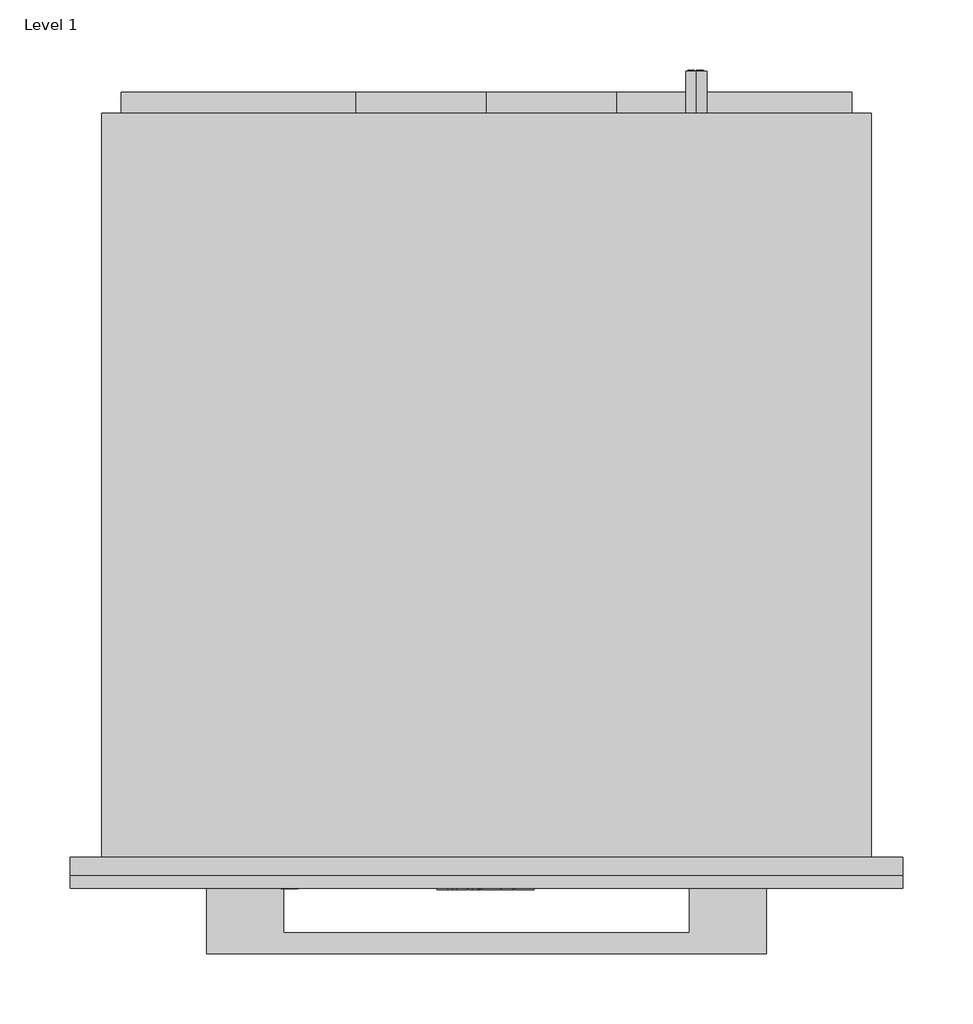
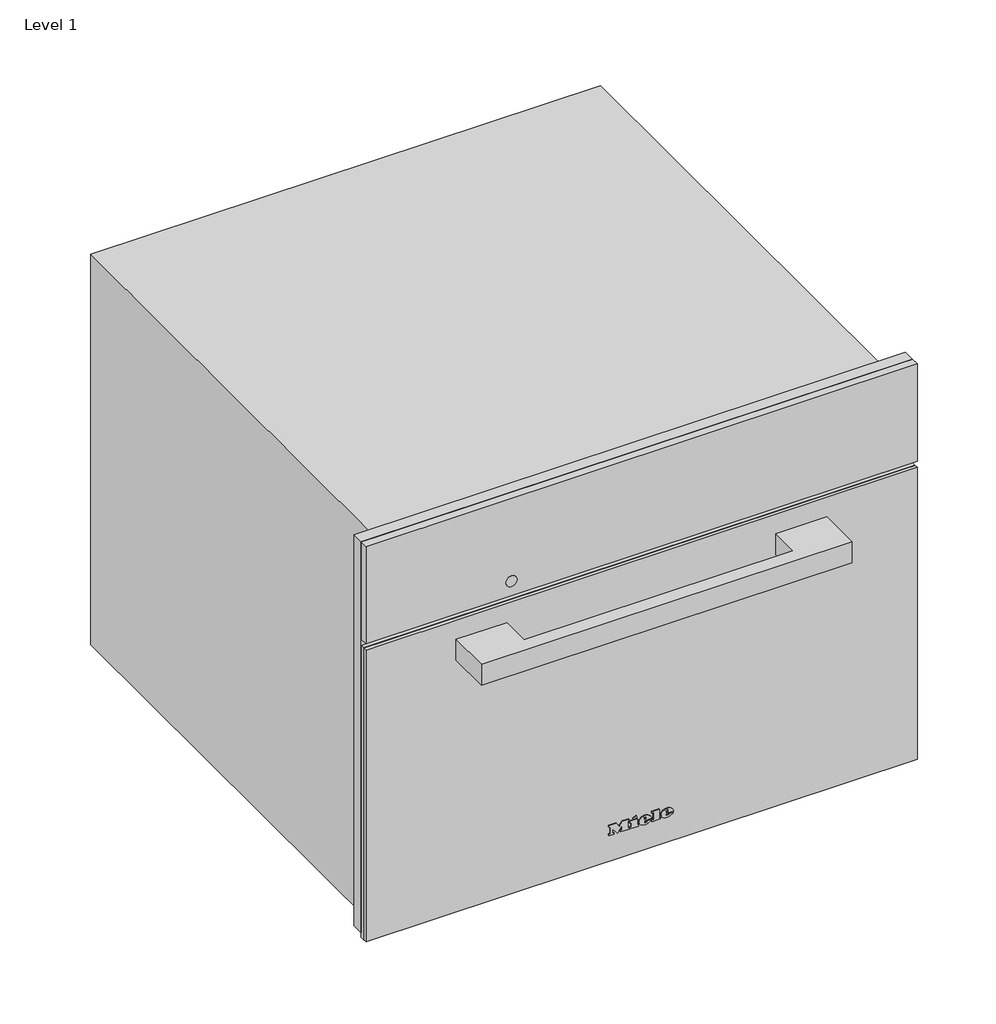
# One storey: 1 proxy.
"""IFC4 building model written with IfcOpenShell, lengths in millimetres."""

import ifcopenshell
import ifcopenshell.guid

model = None  # the IFC model being written
_history = None  # IfcOwnerHistory: only IFC2X3 demands one
_inside = {}  # id of a spatial element -> (the spatial element, [elements in it])
_under = {}  # id of a project, library or spatial element -> (it, [spatial elements below it])
_declared = {}  # id of a project -> (the project, [libraries it declares])
_typed = {}  # id of a type object -> (the type object, [elements of that type])
_made_of = {}  # id of a material, layer set ... -> (it, [elements and type objects made of it])


def new_model(schema):
    """Start an empty IFC model of exactly this schema.

    Asked for "IFC4X3", IfcOpenShell would pick the latest addendum, in which some entities
    have other attributes; the version numbers below select the first issue.
    IFC2X3 requires an IfcOwnerHistory on every rooted entity: one is made here for all.
    """
    global model, _history
    if schema == "IFC4X3":
        model = ifcopenshell.file(schema_version=(4, 3, 0, 0))
    else:
        model = ifcopenshell.file(schema=schema)
    _inside.clear()
    _under.clear()
    _declared.clear()
    _typed.clear()
    _made_of.clear()
    _history = None
    if model.schema == "IFC2X3":
        org = make("IfcOrganization", Name="unknown")
        user = make(
            "IfcPersonAndOrganization",
            ThePerson=make("IfcPerson", FamilyName="unknown"),
            TheOrganization=org,
        )
        app = make(
            "IfcApplication",
            ApplicationDeveloper=org,
            Version="unknown",
            ApplicationFullName="unknown",
            ApplicationIdentifier="unknown",
        )
        _history = make(
            "IfcOwnerHistory",
            OwningUser=user,
            OwningApplication=app,
            ChangeAction="ADDED",
            CreationDate=0,
        )
    return model


def make(cls, **values):
    """One entity of the class cls with the attributes given. An attribute that is None is left unset."""
    return model.create_entity(
        cls, **{name: value for name, value in values.items() if value is not None}
    )


def rooted(cls, **values):
    """An entity with a GlobalId (a new one), such as an element, a storey or a relation."""
    return make(cls, GlobalId=ifcopenshell.guid.new(), OwnerHistory=_history, **values)


def si_unit(unit_type, name, prefix=None):
    """IfcSIUnit, for example si_unit("LENGTHUNIT", "METRE", prefix="MILLI")."""
    return make("IfcSIUnit", UnitType=unit_type, Prefix=prefix, Name=name)


def assignment(units):
    """IfcUnitAssignment: the units of a project."""
    return None if units is None else make("IfcUnitAssignment", Units=units)


def point(xyz):
    """IfcCartesianPoint."""
    return None if xyz is None else make("IfcCartesianPoint", Coordinates=xyz)


def direction(xyz):
    """IfcDirection."""
    return None if xyz is None else make("IfcDirection", DirectionRatios=xyz)


def frame(location, z_axis=None, x_axis=None):
    """IfcAxis2Placement3D, a coordinate frame: its origin and axes. An axis left out is left unset."""
    return make(
        "IfcAxis2Placement3D",
        Location=point(location),
        Axis=direction(z_axis),
        RefDirection=direction(x_axis),
    )


def frame_2d(location, x_axis=None):
    """IfcAxis2Placement2D, a coordinate frame in the plane: its origin and x axis."""
    return make(
        "IfcAxis2Placement2D", Location=point(location), RefDirection=direction(x_axis)
    )


def origin():
    """The frame at (0, 0, 0) with its axes left unset."""
    return frame((0.0, 0.0, 0.0))


def place(relative_to, where):
    """IfcLocalPlacement: puts the frame where relative to a parent placement (None: the world)."""
    return make(
        "IfcLocalPlacement", PlacementRelTo=relative_to, RelativePlacement=where
    )


def context(
    kind, dimensions, precision=None, world=None, true_north=None, identifier=None
):
    """IfcGeometricRepresentationContext, for example the 3D "Model" context."""
    return make(
        "IfcGeometricRepresentationContext",
        ContextIdentifier=identifier,
        ContextType=kind,
        CoordinateSpaceDimension=dimensions,
        Precision=precision,
        WorldCoordinateSystem=world,
        TrueNorth=true_north,
    )


def project(units=None, contexts=None):
    """IfcProject with its units and contexts."""
    return rooted(
        "IfcProject",
        Name="project",
        RepresentationContexts=contexts,
        UnitsInContext=assignment(units),
    )


def spatial(cls, under=None, at=None, **own):
    """A site, building, storey or space (cls), placed at a placement, below another one or the project."""
    s = rooted(cls, ObjectPlacement=at, **own)
    if under is not None:
        _under.setdefault(under.id(), (under, []))[1].append(s)
    return s


def polyline(points):
    """IfcPolyline through the points."""
    return make("IfcPolyline", Points=[point(p) for p in points])


def circle_curve(where, radius):
    """IfcCircle in the frame where."""
    return make("IfcCircle", Position=where, Radius=radius)


def ellipse_curve(where, semi_axis1, semi_axis2):
    """IfcEllipse in the frame where."""
    return make(
        "IfcEllipse", Position=where, SemiAxis1=semi_axis1, SemiAxis2=semi_axis2
    )


def trimmed(basis, trim1, trim2, sense, master):
    """IfcTrimmedCurve: the piece of a basis curve between two trims."""
    return make(
        "IfcTrimmedCurve",
        BasisCurve=basis,
        Trim1=trim1,
        Trim2=trim2,
        SenseAgreement=sense,
        MasterRepresentation=master,
    )


def segment(curve, same_sense, transition):
    """IfcCompositeCurveSegment."""
    return make(
        "IfcCompositeCurveSegment",
        Transition=transition,
        SameSense=same_sense,
        ParentCurve=curve,
    )


def composite_curve(segments, self_intersect=None):
    """IfcCompositeCurve: segments joined end to end."""
    return make("IfcCompositeCurve", Segments=segments, SelfIntersect=self_intersect)


def outline(outer, holes=None, kind="AREA"):
    """IfcArbitraryClosedProfileDef: a profile drawn as a closed curve; with holes, ...WithVoids."""
    if holes is None:
        return make("IfcArbitraryClosedProfileDef", ProfileType=kind, OuterCurve=outer)
    return make(
        "IfcArbitraryProfileDefWithVoids",
        ProfileType=kind,
        OuterCurve=outer,
        InnerCurves=holes,
    )


def extrude(swept, where, along, depth):
    """IfcExtrudedAreaSolid: the profile swept, set in the frame where, extruded along a direction by depth."""
    return make(
        "IfcExtrudedAreaSolid",
        SweptArea=swept,
        Position=where,
        ExtrudedDirection=direction(along),
        Depth=depth,
    )


def faces_of(points, faces, orient=None, outer=None):
    """IfcFace entities. A face is a list of loops; a loop is a list of indices into points, from 0.

    orient and outer hold one flag for each loop. By default every Orientation is true, the
    first loop of a face is its IfcFaceOuterBound and the others are IfcFaceBound.
    """
    made = []
    for i, loops in enumerate(faces):
        bounds = []
        for j, loop in enumerate(loops):
            is_outer = j == 0 if outer is None else outer[i][j]
            bounds.append(
                make(
                    "IfcFaceOuterBound" if is_outer else "IfcFaceBound",
                    Bound=make("IfcPolyLoop", Polygon=[points[k] for k in loop]),
                    Orientation=True if orient is None else orient[i][j],
                )
            )
        made.append(make("IfcFace", Bounds=bounds))
    return made


def faceted_brep(points, faces, orient=None, outer=None, voids=None):
    """IfcFacetedBrep: a solid bounded by flat faces; with voids (closed shells), ...WithVoids."""
    shared = [point(p) for p in points]
    hull = make("IfcClosedShell", CfsFaces=faces_of(shared, faces, orient, outer))
    if voids is None:
        return make("IfcFacetedBrep", Outer=hull)
    return make(
        "IfcFacetedBrepWithVoids",
        Outer=hull,
        Voids=[
            make(cls, CfsFaces=faces_of(shared, fs, o, b)) for cls, fs, o, b in voids
        ],
    )


def shape(context_of_items, identifier, shape_type, items):
    """IfcShapeRepresentation: the items that make up one representation, for example the "Body"."""
    return make(
        "IfcShapeRepresentation",
        ContextOfItems=context_of_items,
        RepresentationIdentifier=identifier,
        RepresentationType=shape_type,
        Items=items,
    )


def source(mapping_origin, context_of_items, identifier, shape_type, items):
    """IfcRepresentationMap: a shape defined once, which mapped items show again and again."""
    return make(
        "IfcRepresentationMap",
        MappingOrigin=mapping_origin,
        MappedRepresentation=shape(context_of_items, identifier, shape_type, items),
    )


def transform(
    local_origin,
    x_axis=None,
    y_axis=None,
    z_axis=None,
    scale=None,
    scale2=None,
    scale3=None,
    uniform=True,
):
    """IfcCartesianTransformationOperator3D, or its non-uniform kind. x_axis, y_axis, z_axis: its Axis1, 2, 3."""
    if uniform:
        return make(
            "IfcCartesianTransformationOperator3D",
            Axis1=direction(x_axis),
            Axis2=direction(y_axis),
            LocalOrigin=point(local_origin),
            Scale=scale,
            Axis3=direction(z_axis),
        )
    return make(
        "IfcCartesianTransformationOperator3DnonUniform",
        Axis1=direction(x_axis),
        Axis2=direction(y_axis),
        LocalOrigin=point(local_origin),
        Scale=scale,
        Axis3=direction(z_axis),
        Scale2=scale2,
        Scale3=scale3,
    )


def mapped(mapping_source, mapping_target):
    """IfcMappedItem: shows the shape of a source again, moved by a transform."""
    return make(
        "IfcMappedItem", MappingSource=mapping_source, MappingTarget=mapping_target
    )


def made_of(thing, what):
    """Note that an element or type object is made of a material, layer set ...; save() writes the relation."""
    if what is not None:
        _made_of.setdefault(what.id(), (what, []))[1].append(thing)
    return thing


def element(
    cls,
    number,
    at=None,
    inside=None,
    cuts=None,
    type_object=None,
    material=None,
    context=None,
    identifier="Body",
    shape_type=None,
    held_by="IfcProductDefinitionShape",
    body=None,
    shapes=None,
    **own,
):
    """One element of the class cls, such as IfcWall. Its Tag is "e" and its number.

    at: its placement. inside: the storey or other place that contains it. cuts: it is an
    opening in that element (IfcRelVoidsElement). A single representation is given by context,
    identifier, shape_type and body (its items); several are given by shapes. held_by: the class
    of the entity that holds the representations. save() writes the other relations.
    """
    e = rooted(cls, Tag="e%d" % number, ObjectPlacement=at, **own)
    if body is not None:
        shapes = [shape(context, identifier, shape_type, body)]
    if shapes is not None:
        e.Representation = make(held_by, Representations=shapes)
    if inside is not None:
        _inside.setdefault(inside.id(), (inside, []))[1].append(e)
    if cuts is not None:
        rooted(
            "IfcRelVoidsElement", RelatingBuildingElement=cuts, RelatedOpeningElement=e
        )
    if type_object is not None:
        _typed.setdefault(type_object.id(), (type_object, []))[1].append(e)
    return made_of(e, material)


def aggregate(whole, parts):
    """IfcRelAggregates: a whole, such as a stair, and the parts it consists of."""
    return rooted("IfcRelAggregates", RelatingObject=whole, RelatedObjects=parts)


def save(model, path):
    """Write the relations noted so far, then the file.

    IfcRelAggregates (storeys below a building ...), IfcRelContainedInSpatialStructure (elements
    in a storey), IfcRelDefinesByType, IfcRelAssociatesMaterial and IfcRelDeclares: one each for
    every whole, place, type object, material and project.
    """
    for whole, parts in _under.values():
        aggregate(whole, parts)
    for where, things in _inside.values():
        rooted(
            "IfcRelContainedInSpatialStructure",
            RelatedElements=things,
            RelatingStructure=where,
        )
    for kind, things in _typed.values():
        rooted("IfcRelDefinesByType", RelatedObjects=things, RelatingType=kind)
    for what, things in _made_of.values():
        rooted("IfcRelAssociatesMaterial", RelatedObjects=things, RelatingMaterial=what)
    for by, libraries in _declared.values():
        rooted("IfcRelDeclares", RelatingContext=by, RelatedDefinitions=libraries)
    model.write(path)


def plane_surface(at):
    """IfcPlane: the flat surface through the origin of the frame at, square to its z axis."""
    return make("IfcPlane", Position=at)


def cylinder_surface(at, radius):
    """IfcCylindricalSurface: all points at the distance radius from the z axis of the frame at."""
    return make("IfcCylindricalSurface", Position=at, Radius=radius)


def revolved_surface(curve, axis_point, axis_direction):
    """IfcSurfaceOfRevolution: the curve turned about the line through axis_point along axis_direction."""
    return make(
        "IfcSurfaceOfRevolution",
        SweptCurve=make("IfcArbitraryOpenProfileDef", ProfileType="CURVE", Curve=curve),
        AxisPosition=make("IfcAxis1Placement", Location=point(axis_point), Axis=direction(axis_direction)),
    )


def extruded_surface(curve, direction_of_extrusion, depth):
    """IfcSurfaceOfLinearExtrusion: the curve pushed along a direction by depth."""
    return make(
        "IfcSurfaceOfLinearExtrusion",
        SweptCurve=make("IfcArbitraryOpenProfileDef", ProfileType="CURVE", Curve=curve),
        ExtrudedDirection=direction(direction_of_extrusion),
        Depth=depth,
    )


def advanced_brep(points, edges, surfaces, faces):
    """IfcAdvancedBrep: a solid bounded by faces that lie on surfaces and meet in shared edges.

    An edge is (start, end): straight between two places in points (the first is 0);
    or (start, end, curve); or (start, end, curve, False) where it runs against its curve.
    A face is (place in surfaces, loops), or (place, loops, False) where it looks against
    its surface's normal. A loop lists edges by number (the first is 1), with a minus sign
    where the edge is run from its end to its start. The first loop is the outer one.
    """
    corners = [point(p) for p in points]
    vertices = [make("IfcVertexPoint", VertexGeometry=c) for c in corners]
    made = []
    for start, end, *more in edges:
        made.append(
            make(
                "IfcEdgeCurve",
                EdgeStart=vertices[start],
                EdgeEnd=vertices[end],
                EdgeGeometry=more[0] if more else make("IfcPolyline", Points=[corners[start], corners[end]]),
                SameSense=more[1] if len(more) > 1 else True,
            )
        )
    hull = []
    for where, loops, *sense in faces:
        bounds = []
        for j, loop in enumerate(loops):
            ring = [make("IfcOrientedEdge", EdgeElement=made[abs(k) - 1], Orientation=k > 0) for k in loop]
            bounds.append(
                make(
                    "IfcFaceOuterBound" if j == 0 else "IfcFaceBound",
                    Bound=make("IfcEdgeLoop", EdgeList=ring),
                    Orientation=True,
                )
            )
        hull.append(make("IfcAdvancedFace", Bounds=bounds, FaceSurface=surfaces[where], SameSense=sense[0] if sense else True))
    return make("IfcAdvancedBrep", Outer=make("IfcClosedShell", CfsFaces=hull))


def specialty_equipment_6ac7eda2(model_context):
    return source(origin(), model_context, "Body", "SolidModel", [
        extrude(outline(polyline([(455.0, 297.5), (455.0, -297.5), (9.0, -297.5), (9.0, -272.5), (344.0, -272.5), (344.0, 272.5), (9.0, 272.5), (9.0, 297.5), (455.0, 297.5)])), frame((0.0, -13.0, 0.0), z_axis=(0.0, 1.0, 0.0), x_axis=(0.0, 0.0, 1.0)), (0.0, 0.0, 1.0), 13.0),
        advanced_brep(
        [(150.0, 561.0, 410.5), (150.0, 561.0, 395.5), (144.4098301, 561.0, 398.0), (148.5, 561.0, 398.0), (148.5, 561.0, 408.0), (147.4955303, 561.0, 408.0), (147.4955303, 561.0, 399.0), (144.0315043, 561.0, 399.0), (144.0315043, 561.0, 398.4582978), (155.0, 561.0, 398.0), (155.0, 561.0, 408.0), (150.0, 561.0, 408.0), (150.0, 561.0, 407.0), (154.0, 561.0, 407.0), (154.0, 561.0, 403.5), (151.0, 561.0, 403.5), (151.0, 561.0, 402.5), (154.0, 561.0, 402.5), (154.0, 561.0, 399.0), (150.0, 561.0, 399.0), (150.0, 561.0, 398.0), (150.0, 531.0, 395.5), (150.0, 531.0, 410.5), (155.0, 562.0, 408.0), (155.0, 562.0, 398.0), (150.0, 562.0, 398.0), (150.0, 562.0, 399.0), (154.0, 562.0, 399.0), (154.0, 562.0, 402.5), (151.0, 562.0, 402.5), (151.0, 562.0, 403.5), (154.0, 562.0, 403.5), (154.0, 562.0, 407.0), (150.0, 562.0, 407.0), (150.0, 562.0, 408.0), (148.5, 562.0, 398.0), (144.0315043, 562.0, 398.0), (144.0315043, 562.0, 399.0), (147.4955303, 562.0, 399.0), (147.4955303, 562.0, 408.0), (148.5, 562.0, 408.0), (144.0315043, 561.0, 398.0)],
        [
            (0, 1, circle_curve(frame((150.0, 561.0, 403.0), z_axis=(0.0, 1.0, 0.0), x_axis=(0.0, 0.0, 1.0)), 7.5)),
            (1, 2, circle_curve(frame((150.0, 561.0, 403.0), z_axis=(0.0, 1.0, 0.0), x_axis=(0.0, 0.0, 1.0)), 7.5)),
            (2, 3),
            (3, 4),
            (4, 5),
            (5, 6),
            (6, 7),
            (7, 8),
            (8, 0, circle_curve(frame((150.0, 561.0, 403.0), z_axis=(0.0, 1.0, 0.0), x_axis=(0.0, 0.0, 1.0)), 7.5)),
            (9, 10),
            (10, 11),
            (11, 12),
            (12, 13),
            (13, 14),
            (14, 15),
            (15, 16),
            (16, 17),
            (17, 18),
            (18, 19),
            (19, 20),
            (20, 9),
            (21, 22, circle_curve(frame((150.0, 531.0, 403.0), z_axis=(0.0, -1.0, 0.0), x_axis=(0.0, 0.0, 1.0)), 7.5)),
            (22, 21, circle_curve(frame((150.0, 531.0, 403.0), z_axis=(0.0, -1.0, 0.0), x_axis=(0.0, 0.0, 1.0)), 7.5)),
            (0, 22),
            (21, 1),
            (8, 2, circle_curve(frame((150.0, 561.0, 403.0), z_axis=(0.0, -1.0, 0.0), x_axis=(0.0, 0.0, 1.0)), 7.5)),
            (23, 24),
            (24, 25),
            (25, 26),
            (26, 27),
            (27, 28),
            (28, 29),
            (29, 30),
            (30, 31),
            (31, 32),
            (32, 33),
            (33, 34),
            (34, 23),
            (35, 36),
            (36, 37),
            (37, 38),
            (38, 39),
            (39, 40),
            (40, 35),
            (8, 41),
            (41, 2),
            (23, 10),
            (9, 24),
            (20, 25),
            (19, 26),
            (18, 27),
            (17, 28),
            (16, 29),
            (15, 30),
            (14, 31),
            (13, 32),
            (12, 33),
            (11, 34),
            (35, 3),
            (41, 36),
            (7, 37),
            (6, 38),
            (5, 39),
            (4, 40),
        ],
        [
            plane_surface(frame((150.0, 561.0, 410.5), z_axis=(0.0, 1.0, 0.0), x_axis=(1.0, 0.0, 0.0))),
            plane_surface(frame((150.0, 531.0, 410.5), z_axis=(0.0, -1.0, 0.0), x_axis=(-1.0, 0.0, 0.0))),
            cylinder_surface(frame((150.0, 561.0, 403.0), z_axis=(0.0, -1.0, 0.0), x_axis=(0.0, 0.0, 1.0)), 7.5),
            plane_surface(frame((155.0, 562.0, 408.0), z_axis=(0.0, 1.0, 0.0), x_axis=(0.0, 0.0, -1.0))),
            plane_surface(frame((155.0, 561.0, 408.0), z_axis=(0.0, -1.0, 0.0), x_axis=(0.0, 0.0, 1.0))),
            plane_surface(frame((155.0, 562.0, 408.0), z_axis=(1.0, 0.0, 0.0), x_axis=(0.0, -1.0, 0.0))),
            plane_surface(frame((155.0, 562.0, 398.0), z_axis=(0.0, 0.0, -1.0), x_axis=(0.0, -1.0, 0.0))),
            plane_surface(frame((150.0, 562.0, 398.0), z_axis=(-1.0, 0.0, 0.0), x_axis=(0.0, -1.0, 0.0))),
            plane_surface(frame((150.0, 562.0, 399.0), z_axis=(0.0, 0.0, 1.0), x_axis=(0.0, -1.0, 0.0))),
            plane_surface(frame((154.0, 562.0, 399.0), z_axis=(-1.0, 0.0, 0.0), x_axis=(0.0, -1.0, 0.0))),
            plane_surface(frame((154.0, 562.0, 402.5), z_axis=(0.0, 0.0, -1.0), x_axis=(0.0, -1.0, 0.0))),
            plane_surface(frame((151.0, 562.0, 402.5), z_axis=(-1.0, 0.0, 0.0), x_axis=(0.0, -1.0, 0.0))),
            plane_surface(frame((151.0, 562.0, 403.5), z_axis=(0.0, 0.0, 1.0), x_axis=(0.0, -1.0, 0.0))),
            plane_surface(frame((154.0, 562.0, 403.5), z_axis=(-1.0, 0.0, 0.0), x_axis=(0.0, -1.0, 0.0))),
            plane_surface(frame((154.0, 562.0, 407.0), z_axis=(0.0, 0.0, -1.0), x_axis=(0.0, -1.0, 0.0))),
            plane_surface(frame((150.0, 562.0, 407.0), z_axis=(-1.0, 0.0, 0.0), x_axis=(0.0, -1.0, 0.0))),
            plane_surface(frame((150.0, 562.0, 408.0), z_axis=(0.0, 0.0, 1.0), x_axis=(0.0, -1.0, 0.0))),
            plane_surface(frame((148.5, 562.0, 398.0), z_axis=(0.0, 0.0, -1.0), x_axis=(0.0, -1.0, 0.0))),
            plane_surface(frame((144.0315043, 562.0, 398.0), z_axis=(-1.0, 0.0, 0.0), x_axis=(0.0, -1.0, 0.0))),
            plane_surface(frame((144.0315043, 562.0, 399.0), z_axis=(0.0, 0.0, 1.0), x_axis=(0.0, -1.0, 0.0))),
            plane_surface(frame((147.4955303, 562.0, 399.0), z_axis=(-1.0, 0.0, 0.0), x_axis=(0.0, -1.0, 0.0))),
            plane_surface(frame((147.4955303, 562.0, 408.0), z_axis=(0.0, 0.0, 1.0), x_axis=(0.0, -1.0, 0.0))),
            plane_surface(frame((148.5, 562.0, 408.0), z_axis=(1.0, 0.0, 0.0), x_axis=(0.0, -1.0, 0.0))),
        ],
        [
            (0, [[1, 2, 3, 4, 5, 6, 7, 8, 9], [10, 11, 12, 13, 14, 15, 16, 17, 18, 19, 20, 21]]),
            (1, [[22, 23]]),
            (2, [[-1, 24, -22, 25]]),
            (2, [[-23, -24, -9, 26, -2, -25]]),
            (3, [[27, 28, 29, 30, 31, 32, 33, 34, 35, 36, 37, 38]]),
            (3, [[39, 40, 41, 42, 43, 44]]),
            (4, [[45, 46, -26]]),
            (5, [[-27, 47, -10, 48]]),
            (6, [[-28, -48, -21, 49]]),
            (7, [[-29, -49, -20, 50]]),
            (8, [[-30, -50, -19, 51]]),
            (9, [[-31, -51, -18, 52]]),
            (10, [[-32, -52, -17, 53]]),
            (11, [[-33, -53, -16, 54]]),
            (12, [[-34, -54, -15, 55]]),
            (13, [[-35, -55, -14, 56]]),
            (14, [[-36, -56, -13, 57]]),
            (15, [[-37, -57, -12, 58]]),
            (16, [[-38, -58, -11, -47]]),
            (17, [[-39, 59, -3, -46, 60]]),
            (18, [[-40, -60, -45, -8, 61]]),
            (19, [[-41, -61, -7, 62]]),
            (20, [[-42, -62, -6, 63]]),
            (21, [[-43, -63, -5, 64]]),
            (22, [[-44, -64, -4, -59]]),
        ],
    ),
        extrude(outline(polyline([(299.0, -93.0), (258.0, -93.0), (258.0, -261.0), (111.0, -261.0), (111.0, -93.0), (70.0, -93.0), (70.0, 0.0), (70.0, 93.0), (111.0, 93.0), (111.0, 261.0), (258.0, 261.0), (258.0, 93.0), (299.0, 93.0), (299.0, 0.0), (299.0, -93.0)])), frame((0.0, 531.0, 0.0), z_axis=(0.0, 1.0, 0.0), x_axis=(0.0, 0.0, 1.0)), (0.0, 0.0, 1.0), 15.0),
        faceted_brep([(275.0, 531.0, 445.0), (275.0, 531.0, 0.0), (-275.0, 531.0, 0.0), (-275.0, 531.0, 445.0), (275.0, 0.0, 445.0), (-275.0, 0.0, 445.0), (-275.0, 0.0, 0.0), (275.0, 0.0, 0.0), (-272.5, 0.0, 344.0), (272.5, 0.0, 344.0), (272.5, 0.0, 8.0), (-272.5, 0.0, 8.0), (272.5, 34.0, 344.0), (-272.5, 34.0, 344.0), (-272.5, 34.0, 8.0), (272.5, 34.0, 8.0), (161.0, 34.0, 286.0), (161.0, 34.0, 58.0), (-220.0, 34.0, 58.0), (-220.0, 34.0, 286.0), (161.0, 444.0, 286.0), (-220.0, 444.0, 286.0), (-220.0, 444.0, 58.0), (161.0, 444.0, 58.0)], [[[0, 1, 2, 3]], [[4, 5, 6, 7], [8, 9, 10, 11]], [[0, 3, 5, 4]], [[3, 2, 6, 5]], [[2, 1, 7, 6]], [[1, 0, 4, 7]], [[12, 13, 14, 15], [16, 17, 18, 19]], [[13, 12, 9, 8]], [[14, 13, 8, 11]], [[15, 14, 11, 10]], [[12, 15, 10, 9]], [[20, 21, 22, 23]], [[20, 23, 17, 16]], [[23, 22, 18, 17]], [[22, 21, 19, 18]], [[21, 20, 16, 19]]]),
        advanced_brep(
        [(26.2998, -23.0, 36.7018), (26.2998, -23.0, 37.8532), (33.9264, -23.0, 37.8532), (20.6568, -23.0, 37.8532), (23.7918, -23.0, 34.0), (33.7326, -23.0, 36.7018), (30.2898, -23.0, 36.7018), (27.5766, -23.0, 35.425), (26.2998, -23.0, 39.3124), (26.2998, -23.0, 40.555), (28.2492, -23.0, 40.555), (28.2492, -23.0, 39.3124), (26.2998, -22.0, 36.7018), (27.5766, -22.0, 35.425), (30.2898, -22.0, 36.7018), (33.7326, -22.0, 36.7018), (23.7918, -22.0, 34.0), (20.6568, -22.0, 37.8532), (33.9264, -22.0, 37.8532), (26.2998, -22.0, 37.8532), (26.2998, -22.0, 39.3124), (28.2492, -22.0, 39.3124), (28.2492, -22.0, 40.555), (26.2998, -22.0, 40.555)],
        [
            (0, 1),
            (1, 2),
            (2, 3, ellipse_curve(frame((27.2916, -23.0, 37.8532), z_axis=(0.0, -1.0, 0.0), x_axis=(-1.0, 0.0, 0.0)), 6.6348, 5.4834)),
            (3, 4, circle_curve(frame((25.0686622, -23.0, 38.2408), z_axis=(0.0, -1.0, 0.0), x_axis=(0.0, 0.0, -1.0)), 4.4288556)),
            (4, 5, circle_curve(frame((27.1587808, -23.0, 41.2504), z_axis=(0.0, -1.0, 0.0), x_axis=(0.0, 0.0, -1.0)), 7.9940516)),
            (5, 6),
            (6, 7, circle_curve(frame((28.1338588, -23.0, 37.762), z_axis=(0.0, 1.0, 0.0), x_axis=(0.0, 0.0, -1.0)), 2.4025208)),
            (7, 0, circle_curve(frame((27.5766, -23.0, 36.7018), z_axis=(0.0, 1.0, 0.0), x_axis=(0.0, 0.0, -1.0)), 1.2768)),
            (8, 9),
            (9, 10, circle_curve(frame((27.2745, -23.0, 40.555), z_axis=(0.0, 1.0, 0.0), x_axis=(0.0, 0.0, -1.0)), 0.9747)),
            (10, 11),
            (11, 8),
            (12, 13, circle_curve(frame((27.5766, -22.0, 36.7018), z_axis=(0.0, -1.0, 0.0), x_axis=(0.0, 0.0, -1.0)), 1.2768)),
            (13, 14, circle_curve(frame((28.1338588, -22.0, 37.762), z_axis=(0.0, -1.0, 0.0), x_axis=(0.0, 0.0, -1.0)), 2.4025208)),
            (14, 15),
            (15, 16, circle_curve(frame((27.1587808, -22.0, 41.2504), z_axis=(0.0, 1.0, 0.0), x_axis=(0.0, 0.0, -1.0)), 7.9940516)),
            (16, 17, circle_curve(frame((25.0686622, -22.0, 38.2408), z_axis=(0.0, 1.0, 0.0), x_axis=(0.0, 0.0, -1.0)), 4.4288556)),
            (17, 18, ellipse_curve(frame((27.2916, -22.0, 37.8532), z_axis=(0.0, 1.0, 0.0), x_axis=(-1.0, 0.0, 0.0)), 6.6348, 5.4834)),
            (18, 19),
            (19, 12),
            (20, 21),
            (21, 22),
            (22, 23, circle_curve(frame((27.2745, -22.0, 40.555), z_axis=(0.0, -1.0, 0.0), x_axis=(0.0, 0.0, -1.0)), 0.9747)),
            (23, 20),
            (0, 12),
            (19, 1),
            (18, 2),
            (5, 15),
            (14, 6),
            (17, 3),
            (13, 7),
            (16, 4),
            (8, 20),
            (23, 9),
            (22, 10),
            (21, 11),
        ],
        [
            plane_surface(frame((26.2998, -23.0, 37.8532), z_axis=(0.0, -1.0, 0.0), x_axis=(0.0, 0.0, 1.0))),
            plane_surface(frame((26.2998, -22.0, 37.8532), z_axis=(0.0, 1.0, 0.0), x_axis=(0.0, 0.0, -1.0))),
            plane_surface(frame((26.2998, -23.0, 36.7018), z_axis=(1.0, 0.0, 0.0), x_axis=(0.0, 1.0, 0.0))),
            plane_surface(frame((26.2998, -23.0, 37.8532), z_axis=(0.0, 0.0, -1.0), x_axis=(0.0, 1.0, 0.0))),
            plane_surface(frame((33.7326, -23.0, 36.7018), z_axis=(0.0, 0.0, 1.0), x_axis=(0.0, 1.0, 0.0))),
            extruded_surface(trimmed(ellipse_curve(frame((27.2916, -21.0, 37.8532), z_axis=(0.0, -1.0, 0.0), x_axis=(-1.0, 0.0, 0.0)), 6.6348, 5.4834), [point((33.9264, -21.0, 37.8532))], [point((20.6568, -21.0, 37.8532))], True, "CARTESIAN"), (0.0, -1.0, 0.0), 1.0),
            revolved_surface(polyline([(28.1338588, -22.0, 35.3594792), (28.1338588, -23.0, 35.3594792)]), (28.1338588, -22.0, 37.762), (0.0, 1.0, 0.0)),
            revolved_surface(polyline([(27.5766, -22.0, 35.425), (27.5766, -23.0, 35.425)]), (27.5766, -22.0, 36.7018), (0.0, 1.0, 0.0)),
            cylinder_surface(frame((25.0686622, -22.0, 38.2408), z_axis=(0.0, -1.0, 0.0), x_axis=(0.0, 0.0, -1.0)), 4.4288556),
            cylinder_surface(frame((27.1587808, -22.0, 41.2504), z_axis=(0.0, -1.0, 0.0), x_axis=(0.0, 0.0, -1.0)), 7.9940516),
            plane_surface(frame((26.2998, -23.0, 39.3124), z_axis=(1.0, 0.0, 0.0), x_axis=(0.0, 1.0, 0.0))),
            revolved_surface(polyline([(27.2745, -22.0, 39.5803), (27.2745, -23.0, 39.5803)]), (27.2745, -22.0, 40.555), (0.0, 1.0, 0.0)),
            plane_surface(frame((28.2492, -23.0, 40.555), z_axis=(-1.0, 0.0, 0.0), x_axis=(0.0, 1.0, 0.0))),
            plane_surface(frame((28.2492, -23.0, 39.3124), z_axis=(0.0, 0.0, 1.0), x_axis=(0.0, 1.0, 0.0))),
        ],
        [
            (0, [[1, 2, 3, 4, 5, 6, 7, 8], [9, 10, 11, 12]]),
            (1, [[13, 14, 15, 16, 17, 18, 19, 20], [21, 22, 23, 24]]),
            (2, [[-1, 25, -20, 26]]),
            (3, [[-2, -26, -19, 27]]),
            (4, [[-6, 28, -15, 29]]),
            (5, [[-3, -27, -18, 30]]),
            (6, [[-7, -29, -14, 31]]),
            (7, [[-8, -31, -13, -25]]),
            (8, [[-4, -30, -17, 32]]),
            (9, [[-5, -32, -16, -28]]),
            (10, [[-9, 33, -24, 34]]),
            (11, [[-10, -34, -23, 35]]),
            (12, [[-11, -35, -22, 36]]),
            (13, [[-12, -36, -21, -33]]),
        ],
    ),
        advanced_brep(
        [(2.508, -23.0, 36.7018), (2.508, -23.0, 37.8532), (10.1346, -23.0, 37.8532), (-3.135, -23.0, 37.8532), (0.0, -23.0, 34.0), (9.9408, -23.0, 36.7018), (6.498, -23.0, 36.7018), (3.7848, -23.0, 35.425), (2.508, -23.0, 39.3124), (2.508, -23.0, 40.555), (4.4574, -23.0, 40.555), (4.4574, -23.0, 39.3124), (2.508, -22.0, 36.7018), (3.7848, -22.0, 35.425), (6.498, -22.0, 36.7018), (9.9408, -22.0, 36.7018), (0.0, -22.0, 34.0), (-3.135, -22.0, 37.8532), (10.1346, -22.0, 37.8532), (2.508, -22.0, 37.8532), (2.508, -22.0, 39.3124), (4.4574, -22.0, 39.3124), (4.4574, -22.0, 40.555), (2.508, -22.0, 40.555)],
        [
            (0, 1),
            (1, 2),
            (2, 3, ellipse_curve(frame((3.4998, -23.0, 37.8532), z_axis=(0.0, -1.0, 0.0), x_axis=(-1.0, 0.0, 0.0)), 6.6348, 5.4834)),
            (3, 4, circle_curve(frame((1.2768622, -23.0, 38.2408), z_axis=(0.0, -1.0, 0.0), x_axis=(0.0, 0.0, -1.0)), 4.4288556)),
            (4, 5, circle_curve(frame((3.3669808, -23.0, 41.2504), z_axis=(0.0, -1.0, 0.0), x_axis=(0.0, 0.0, -1.0)), 7.9940516)),
            (5, 6),
            (6, 7, circle_curve(frame((4.3420588, -23.0, 37.762), z_axis=(0.0, 1.0, 0.0), x_axis=(0.0, 0.0, -1.0)), 2.4025208)),
            (7, 0, circle_curve(frame((3.7848, -23.0, 36.7018), z_axis=(0.0, 1.0, 0.0), x_axis=(0.0, 0.0, -1.0)), 1.2768)),
            (8, 9),
            (9, 10, circle_curve(frame((3.4827, -23.0, 40.555), z_axis=(0.0, 1.0, 0.0), x_axis=(0.0, 0.0, -1.0)), 0.9747)),
            (10, 11),
            (11, 8),
            (12, 13, circle_curve(frame((3.7848, -22.0, 36.7018), z_axis=(0.0, -1.0, 0.0), x_axis=(0.0, 0.0, -1.0)), 1.2768)),
            (13, 14, circle_curve(frame((4.3420588, -22.0, 37.762), z_axis=(0.0, -1.0, 0.0), x_axis=(0.0, 0.0, -1.0)), 2.4025208)),
            (14, 15),
            (15, 16, circle_curve(frame((3.3669808, -22.0, 41.2504), z_axis=(0.0, 1.0, 0.0), x_axis=(0.0, 0.0, -1.0)), 7.9940516)),
            (16, 17, circle_curve(frame((1.2768622, -22.0, 38.2408), z_axis=(0.0, 1.0, 0.0), x_axis=(0.0, 0.0, -1.0)), 4.4288556)),
            (17, 18, ellipse_curve(frame((3.4998, -22.0, 37.8532), z_axis=(0.0, 1.0, 0.0), x_axis=(-1.0, 0.0, 0.0)), 6.6348, 5.4834)),
            (18, 19),
            (19, 12),
            (20, 21),
            (21, 22),
            (22, 23, circle_curve(frame((3.4827, -22.0, 40.555), z_axis=(0.0, -1.0, 0.0), x_axis=(0.0, 0.0, -1.0)), 0.9747)),
            (23, 20),
            (0, 12),
            (19, 1),
            (18, 2),
            (5, 15),
            (14, 6),
            (17, 3),
            (13, 7),
            (16, 4),
            (8, 20),
            (23, 9),
            (22, 10),
            (21, 11),
        ],
        [
            plane_surface(frame((2.508, -23.0, 37.8532), z_axis=(0.0, -1.0, 0.0), x_axis=(0.0, 0.0, 1.0))),
            plane_surface(frame((2.508, -22.0, 37.8532), z_axis=(0.0, 1.0, 0.0), x_axis=(0.0, 0.0, -1.0))),
            plane_surface(frame((2.508, -23.0, 36.7018), z_axis=(1.0, 0.0, 0.0), x_axis=(0.0, 1.0, 0.0))),
            plane_surface(frame((2.508, -23.0, 37.8532), z_axis=(0.0, 0.0, -1.0), x_axis=(0.0, 1.0, 0.0))),
            plane_surface(frame((9.9408, -23.0, 36.7018), z_axis=(0.0, 0.0, 1.0), x_axis=(0.0, 1.0, 0.0))),
            extruded_surface(trimmed(ellipse_curve(frame((3.4998, -21.0, 37.8532), z_axis=(0.0, -1.0, 0.0), x_axis=(-1.0, 0.0, 0.0)), 6.6348, 5.4834), [point((10.1346, -21.0, 37.8532))], [point((-3.135, -21.0, 37.8532))], True, "CARTESIAN"), (0.0, -1.0, 0.0), 1.0),
            revolved_surface(polyline([(4.3420588, -22.0, 35.3594792), (4.3420588, -23.0, 35.3594792)]), (4.3420588, -22.0, 37.762), (0.0, 1.0, 0.0)),
            revolved_surface(polyline([(3.7848, -22.0, 35.425), (3.7848, -23.0, 35.425)]), (3.7848, -22.0, 36.7018), (0.0, 1.0, 0.0)),
            cylinder_surface(frame((1.2768622, -22.0, 38.2408), z_axis=(0.0, -1.0, 0.0), x_axis=(0.0, 0.0, -1.0)), 4.4288556),
            cylinder_surface(frame((3.3669808, -22.0, 41.2504), z_axis=(0.0, -1.0, 0.0), x_axis=(0.0, 0.0, -1.0)), 7.9940516),
            plane_surface(frame((2.508, -23.0, 39.3124), z_axis=(1.0, 0.0, 0.0), x_axis=(0.0, 1.0, 0.0))),
            revolved_surface(polyline([(3.4827, -22.0, 39.5803), (3.4827, -23.0, 39.5803)]), (3.4827, -22.0, 40.555), (0.0, 1.0, 0.0)),
            plane_surface(frame((4.4574, -23.0, 40.555), z_axis=(-1.0, 0.0, 0.0), x_axis=(0.0, 1.0, 0.0))),
            plane_surface(frame((4.4574, -23.0, 39.3124), z_axis=(0.0, 0.0, 1.0), x_axis=(0.0, 1.0, 0.0))),
        ],
        [
            (0, [[1, 2, 3, 4, 5, 6, 7, 8], [9, 10, 11, 12]]),
            (1, [[13, 14, 15, 16, 17, 18, 19, 20], [21, 22, 23, 24]]),
            (2, [[-1, 25, -20, 26]]),
            (3, [[-2, -26, -19, 27]]),
            (4, [[-6, 28, -15, 29]]),
            (5, [[-3, -27, -18, 30]]),
            (6, [[-7, -29, -14, 31]]),
            (7, [[-8, -31, -13, -25]]),
            (8, [[-4, -30, -17, 32]]),
            (9, [[-5, -32, -16, -28]]),
            (10, [[-9, 33, -24, 34]]),
            (11, [[-10, -34, -23, 35]]),
            (12, [[-11, -35, -22, 36]]),
            (13, [[-12, -36, -21, -33]]),
        ],
    ),
        extrude(outline(polyline([(44.7274, -9.9522), (42.8806, -9.0858), (44.6818, -5.2212), (46.5286, -6.0762), (44.7274, -9.9522)])), frame((0.0, -23.0, 0.0), z_axis=(0.0, 1.0, 0.0), x_axis=(0.0, 0.0, 1.0)), (0.0, 0.0, 1.0), 1.0),
        extrude(outline(polyline([(42.6298, -12.768), (40.5892, -12.768), (40.5892, -11.4114), (35.9152, -11.4114), (35.9152, -12.768), (34.0, -12.768), (34.0, -3.7734), (35.9152, -3.7734), (35.9152, -5.0958), (42.6298, -5.0958), (42.6298, -12.768)])), frame((0.0, -23.0, 0.0), z_axis=(0.0, 1.0, 0.0), x_axis=(0.0, 0.0, 1.0)), (0.0, 0.0, 1.0), 1.0),
        extrude(outline(polyline([(43.5418, 10.773), (43.5418, 12.141), (35.9152, 12.141), (35.9152, 10.773), (34.0, 10.773), (34.0, 20.0184), (35.9152, 20.0184), (35.9152, 18.6162), (45.4, 18.6162), (45.4, 10.773), (43.5418, 10.773)])), frame((0.0, -23.0, 0.0), z_axis=(0.0, 1.0, 0.0), x_axis=(0.0, 0.0, 1.0)), (0.0, 0.0, 1.0), 1.0),
        extrude(outline(polyline([(43.5418, -35.4882), (43.5418, -34.1088), (35.9152, -34.1088), (35.9152, -35.4882), (34.0, -35.4882), (34.0, -30.4722), (35.9152, -30.4722), (35.9152, -31.8402), (40.7429247, -31.8402), (34.0, -26.7444), (40.9402223, -21.6258), (35.9152, -21.6258), (35.9152, -23.028), (34.0, -23.028), (34.0, -13.9308), (35.9152, -13.9308), (35.9152, -15.3786), (43.5418, -15.3786), (43.5418, -13.9308), (45.4, -13.9308), (45.4, -20.8734), (41.125, -24.2022), (45.4, -27.5424), (45.4, -35.4882), (43.5418, -35.4882)])), frame((0.0, -23.0, 0.0), z_axis=(0.0, 1.0, 0.0), x_axis=(0.0, 0.0, 1.0)), (0.0, 0.0, 1.0), 1.0),
        extrude(outline(polyline([(297.5, -22.0), (-297.5, -22.0), (-297.5, -13.0), (297.5, -13.0), (297.5, -22.0)])), frame((0.0, 0.0, 344.0), z_axis=(0.0, 0.0, 1.0), x_axis=(1.0, 0.0, 0.0)), (0.0, 0.0, 1.0), 111.0),
        extrude(outline(composite_curve([segment(trimmed(circle_curve(frame_2d((361.0, -140.5745637)), 6.0), [point((361.0, -146.5745637))], [point((361.0, -134.5745637))], False, "CARTESIAN"), True, "CONTINUOUS"), segment(trimmed(circle_curve(frame_2d((361.0, -140.5745637)), 6.0), [point((361.0, -134.5745637))], [point((361.0, -146.5745637))], False, "CARTESIAN"), True, "CONTINUOUS")], self_intersect=False)), frame((0.0, -22.5, 0.0), z_axis=(0.0, 1.0, 0.0), x_axis=(0.0, 0.0, 1.0)), (0.0, 0.0, 1.0), 1.0),
        extrude(outline(polyline([(-200.0, -69.0), (-200.0, -22.0), (-145.0, -22.0), (-145.0, -54.0), (145.0, -54.0), (145.0, -22.0), (200.0, -22.0), (200.0, -69.0), (-200.0, -69.0)])), frame((0.0, 0.0, 291.0), z_axis=(0.0, 0.0, 1.0), x_axis=(1.0, 0.0, 0.0)), (0.0, 0.0, 1.0), 24.0),
        extrude(outline(polyline([(297.5, -18.0), (-297.5, -18.0), (-297.5, -13.0), (297.5, -13.0), (297.5, -18.0)])), frame((0.0, 0.0, 4.0), z_axis=(0.0, 0.0, 1.0), x_axis=(1.0, 0.0, 0.0)), (0.0, 0.0, 1.0), 333.0),
        extrude(outline(polyline([(-297.5, -18.0), (297.5, -18.0), (297.5, -22.0), (-297.5, -22.0), (-297.5, -18.0)])), frame((0.0, 0.0, 4.0), z_axis=(0.0, 0.0, 1.0), x_axis=(1.0, 0.0, 0.0)), (0.0, 0.0, 1.0), 333.0),
    ])


model = new_model("IFC4")

# Units and contexts
model_context = context("Model", 3, world=origin())
ifc_project = project(units=[si_unit("LENGTHUNIT", "METRE", prefix="MILLI")], contexts=[model_context])

# Site, building, storey
site = spatial("IfcSite", under=ifc_project)
building = spatial("IfcBuilding", under=site)
storey = spatial("IfcBuildingStorey", under=building, Name="Level 1", Elevation=0.0)

# Proxy
placement = place(None, origin())
specialty_equipment_shape = specialty_equipment_6ac7eda2(model_context)
element("IfcBuildingElementProxy", 1, Name="11134220_I_DG7240_OBSW : 23724020_I_11134220_DG7240_OBSW", ObjectType="11134220_I_DG7240_OBSW : 23724020_I_11134220_DG7240_OBSW", at=placement, inside=storey, context=model_context, shape_type="MappedRepresentation", body=[
    mapped(specialty_equipment_shape, transform((0.0, 0.0, 0.0), x_axis=(1.0, 0.0, 0.0), y_axis=(0.0, 1.0, 0.0), z_axis=(0.0, 0.0, 1.0))),
])

save(model, "model.ifc")
